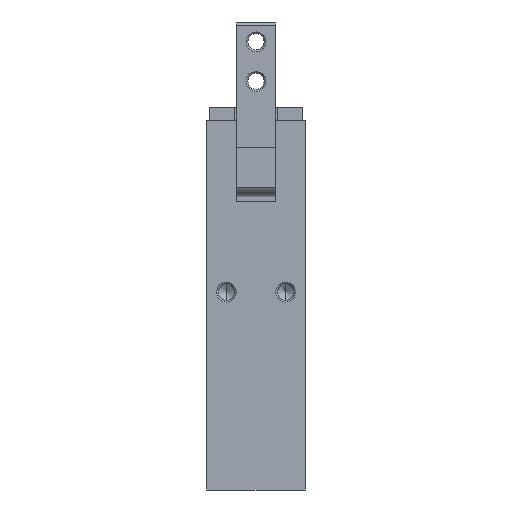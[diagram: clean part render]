
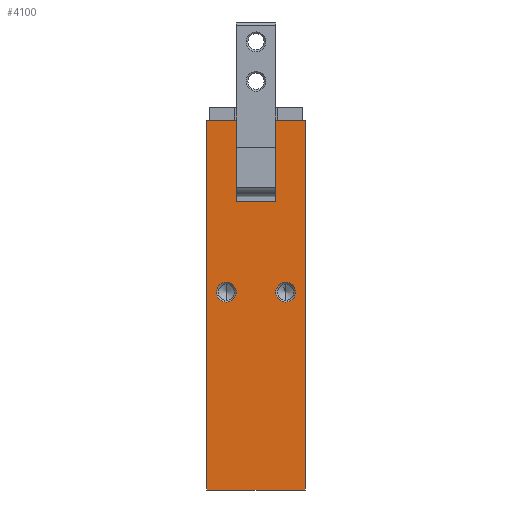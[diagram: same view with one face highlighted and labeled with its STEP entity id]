
A CAD part, left-side view. The second image highlights one B-rep face of the part: STEP entity #4100.
In plain terms, the highlighted planar face has unit normal (-1, 0, 0).
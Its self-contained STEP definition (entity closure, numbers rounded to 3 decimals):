
#48 = EDGE_CURVE ( 'NONE', #4545, #2881, #5701, .T. ) ;
#76 = DIRECTION ( 'NONE',  ( 1., 0., 0. ) ) ;
#99 = DIRECTION ( 'NONE',  ( 0., -1., 0. ) ) ;
#134 = PLANE ( 'NONE',  #2067 ) ;
#166 = DIRECTION ( 'NONE',  ( 0., 0., 1. ) ) ;
#191 = CARTESIAN_POINT ( 'NONE',  ( -15., 7.5, 56. ) ) ;
#263 = FACE_BOUND ( 'NONE', #4707, .T. ) ;
#268 = EDGE_CURVE ( 'NONE', #2886, #6710, #704, .T. ) ;
#325 = EDGE_LOOP ( 'NONE', ( #3635, #2567, #5368, #2696, #4849, #6070, #6712, #2551 ) ) ;
#407 = VERTEX_POINT ( 'NONE', #2437 ) ;
#421 = EDGE_LOOP ( 'NONE', ( #3004, #5850 ) ) ;
#478 = EDGE_CURVE ( 'NONE', #1718, #6387, #4469, .T. ) ;
#597 = DIRECTION ( 'NONE',  ( 0., 0., -1. ) ) ;
#599 = DIRECTION ( 'NONE',  ( 0., 0., -1. ) ) ;
#611 = VECTOR ( 'NONE', #166, 1000. ) ;
#659 = VECTOR ( 'NONE', #99, 1000. ) ;
#704 = LINE ( 'NONE', #5312, #611 ) ;
#720 = CARTESIAN_POINT ( 'NONE',  ( -15., 7.5, 56. ) ) ;
#822 = CARTESIAN_POINT ( 'NONE',  ( -15., -4.5, 31.5 ) ) ;
#858 = AXIS2_PLACEMENT_3D ( 'NONE', #1661, #76, #597 ) ;
#876 = DIRECTION ( 'NONE',  ( 0., 0., -1. ) ) ;
#931 = VECTOR ( 'NONE', #5309, 1000. ) ;
#1139 = VERTEX_POINT ( 'NONE', #5112 ) ;
#1240 = DIRECTION ( 'NONE',  ( 1., 0., 0. ) ) ;
#1257 = LINE ( 'NONE', #4760, #2878 ) ;
#1274 = CARTESIAN_POINT ( 'NONE',  ( -15., 3., 43.8 ) ) ;
#1340 = CIRCLE ( 'NONE', #3382, 1.5 ) ;
#1426 = VECTOR ( 'NONE', #3611, 1000. ) ;
#1438 = VECTOR ( 'NONE', #5274, 1000. ) ;
#1457 = VERTEX_POINT ( 'NONE', #5148 ) ;
#1590 = DIRECTION ( 'NONE',  ( 1., 0., 0. ) ) ;
#1661 = CARTESIAN_POINT ( 'NONE',  ( -15., -4.5, 30. ) ) ;
#1711 = DIRECTION ( 'NONE',  ( 0., -1., 0. ) ) ;
#1718 = VERTEX_POINT ( 'NONE', #3703 ) ;
#1796 = CARTESIAN_POINT ( 'NONE',  ( -15., 4.5, 30. ) ) ;
#2067 = AXIS2_PLACEMENT_3D ( 'NONE', #720, #1240, #4842 ) ;
#2148 = CARTESIAN_POINT ( 'NONE',  ( -15., -3., 43.8 ) ) ;
#2241 = CARTESIAN_POINT ( 'NONE',  ( -15., -7.5, 0. ) ) ;
#2278 = EDGE_CURVE ( 'NONE', #1139, #2886, #4154, .T. ) ;
#2300 = VERTEX_POINT ( 'NONE', #2671 ) ;
#2302 = AXIS2_PLACEMENT_3D ( 'NONE', #1796, #5426, #5392 ) ;
#2437 = CARTESIAN_POINT ( 'NONE',  ( -15., 7.5, 0. ) ) ;
#2504 = CARTESIAN_POINT ( 'NONE',  ( -15., -4.5, 28.5 ) ) ;
#2551 = ORIENTED_EDGE ( 'NONE', *, *, #4019, .F. ) ;
#2567 = ORIENTED_EDGE ( 'NONE', *, *, #2278, .T. ) ;
#2671 = CARTESIAN_POINT ( 'NONE',  ( -15., 4.5, 28.5 ) ) ;
#2696 = ORIENTED_EDGE ( 'NONE', *, *, #6294, .F. ) ;
#2725 = LINE ( 'NONE', #6045, #6350 ) ;
#2878 = VECTOR ( 'NONE', #1711, 1000. ) ;
#2881 = VERTEX_POINT ( 'NONE', #822 ) ;
#2886 = VERTEX_POINT ( 'NONE', #1274 ) ;
#3004 = ORIENTED_EDGE ( 'NONE', *, *, #6704, .T. ) ;
#3020 = ORIENTED_EDGE ( 'NONE', *, *, #3313, .T. ) ;
#3313 = EDGE_CURVE ( 'NONE', #2881, #4545, #1340, .T. ) ;
#3328 = DIRECTION ( 'NONE',  ( 1., 0., 0. ) ) ;
#3333 = CARTESIAN_POINT ( 'NONE',  ( -15., 7.5, 56. ) ) ;
#3377 = LINE ( 'NONE', #191, #931 ) ;
#3382 = AXIS2_PLACEMENT_3D ( 'NONE', #3767, #3328, #6385 ) ;
#3611 = DIRECTION ( 'NONE',  ( 0., 0., -1. ) ) ;
#3618 = CARTESIAN_POINT ( 'NONE',  ( -15., 4.5, 31.5 ) ) ;
#3635 = ORIENTED_EDGE ( 'NONE', *, *, #5897, .T. ) ;
#3703 = CARTESIAN_POINT ( 'NONE',  ( -15., -7.5, 56. ) ) ;
#3733 = FACE_OUTER_BOUND ( 'NONE', #325, .T. ) ;
#3747 = DIRECTION ( 'NONE',  ( 0., 0., -1. ) ) ;
#3767 = CARTESIAN_POINT ( 'NONE',  ( -15., -4.5, 30. ) ) ;
#3925 = EDGE_CURVE ( 'NONE', #2300, #5795, #5760, .T. ) ;
#4019 = EDGE_CURVE ( 'NONE', #1457, #1718, #6413, .T. ) ;
#4100 = ADVANCED_FACE ( 'NONE', ( #3733, #263, #5269 ), #134, .F. ) ;
#4154 = LINE ( 'NONE', #2148, #1438 ) ;
#4469 = LINE ( 'NONE', #4995, #1426 ) ;
#4545 = VERTEX_POINT ( 'NONE', #2504 ) ;
#4707 = EDGE_LOOP ( 'NONE', ( #3020, #5215 ) ) ;
#4760 = CARTESIAN_POINT ( 'NONE',  ( -15., 7.5, 0. ) ) ;
#4842 = DIRECTION ( 'NONE',  ( 0., 1., 0. ) ) ;
#4849 = ORIENTED_EDGE ( 'NONE', *, *, #5169, .T. ) ;
#4865 = AXIS2_PLACEMENT_3D ( 'NONE', #6254, #1590, #599 ) ;
#4906 = CARTESIAN_POINT ( 'NONE',  ( -15., 3., 56. ) ) ;
#4995 = CARTESIAN_POINT ( 'NONE',  ( -15., -7.5, 56. ) ) ;
#5112 = CARTESIAN_POINT ( 'NONE',  ( -15., -3., 43.8 ) ) ;
#5148 = CARTESIAN_POINT ( 'NONE',  ( -15., -3., 56. ) ) ;
#5169 = EDGE_CURVE ( 'NONE', #6455, #407, #2725, .T. ) ;
#5215 = ORIENTED_EDGE ( 'NONE', *, *, #48, .T. ) ;
#5269 = FACE_BOUND ( 'NONE', #421, .T. ) ;
#5274 = DIRECTION ( 'NONE',  ( 0., 1., 0. ) ) ;
#5283 = CARTESIAN_POINT ( 'NONE',  ( -15., -3., 56. ) ) ;
#5305 = CIRCLE ( 'NONE', #2302, 1.5 ) ;
#5309 = DIRECTION ( 'NONE',  ( 0., -1., 0. ) ) ;
#5312 = CARTESIAN_POINT ( 'NONE',  ( -15., 3., 43.8 ) ) ;
#5368 = ORIENTED_EDGE ( 'NONE', *, *, #268, .T. ) ;
#5392 = DIRECTION ( 'NONE',  ( 0., 0., -1. ) ) ;
#5426 = DIRECTION ( 'NONE',  ( 1., 0., 0. ) ) ;
#5486 = EDGE_CURVE ( 'NONE', #407, #6387, #1257, .T. ) ;
#5701 = CIRCLE ( 'NONE', #858, 1.5 ) ;
#5760 = CIRCLE ( 'NONE', #4865, 1.5 ) ;
#5781 = LINE ( 'NONE', #5283, #6339 ) ;
#5795 = VERTEX_POINT ( 'NONE', #3618 ) ;
#5850 = ORIENTED_EDGE ( 'NONE', *, *, #3925, .T. ) ;
#5897 = EDGE_CURVE ( 'NONE', #1457, #1139, #5781, .T. ) ;
#6045 = CARTESIAN_POINT ( 'NONE',  ( -15., 7.5, 56. ) ) ;
#6070 = ORIENTED_EDGE ( 'NONE', *, *, #5486, .T. ) ;
#6254 = CARTESIAN_POINT ( 'NONE',  ( -15., 4.5, 30. ) ) ;
#6294 = EDGE_CURVE ( 'NONE', #6455, #6710, #3377, .T. ) ;
#6339 = VECTOR ( 'NONE', #3747, 1000. ) ;
#6350 = VECTOR ( 'NONE', #876, 1000. ) ;
#6385 = DIRECTION ( 'NONE',  ( 0., 0., -1. ) ) ;
#6387 = VERTEX_POINT ( 'NONE', #2241 ) ;
#6393 = CARTESIAN_POINT ( 'NONE',  ( -15., 7.5, 56. ) ) ;
#6413 = LINE ( 'NONE', #6393, #659 ) ;
#6455 = VERTEX_POINT ( 'NONE', #3333 ) ;
#6704 = EDGE_CURVE ( 'NONE', #5795, #2300, #5305, .T. ) ;
#6710 = VERTEX_POINT ( 'NONE', #4906 ) ;
#6712 = ORIENTED_EDGE ( 'NONE', *, *, #478, .F. ) ;
